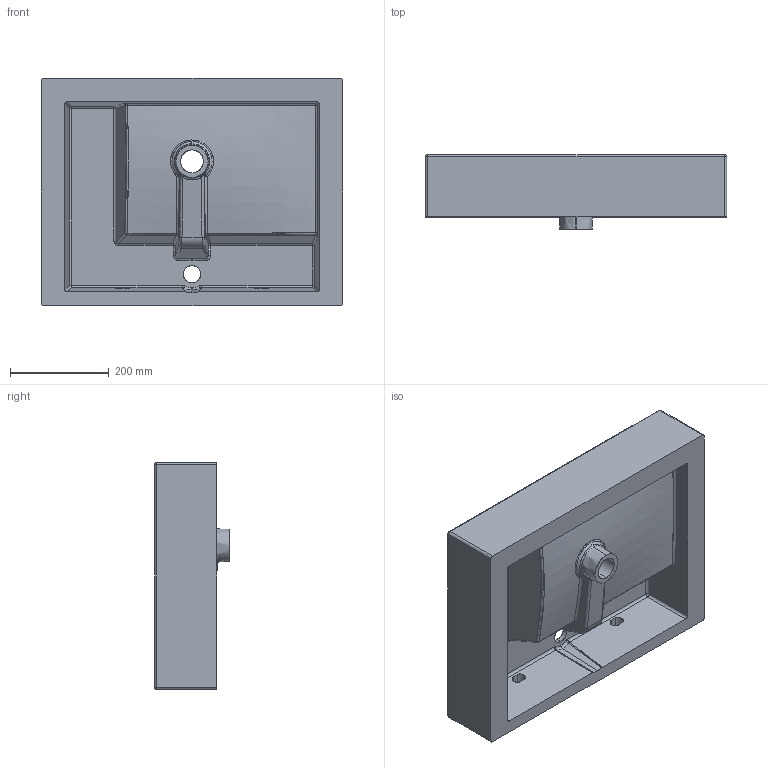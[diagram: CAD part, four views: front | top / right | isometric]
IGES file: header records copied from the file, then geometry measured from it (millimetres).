
Start section: SolidWorks IGES file using analytic representation for surfaces
Global section: file name: \\vmware-host\Shared Folders\Documenti\Lavoro\modifiche Tecla\3D-modifiche\TWENTY 61\PROJECT2017 60 Psix.IGS; native system: SolidWorks 2017; preprocessor: SolidWorks 2017; author: silvia; date: 171109.155356; units: millimetre
Bounding box: 610 x 150 x 460 mm (x, y, z)
Surface area: 1096535.6 mm2 (no closed solid volume)
Topology: 0 solids, 0 shells, 180 faces, 2186 edges, 2178 vertices
Faces by surface type: bspline 93, revolution 87
